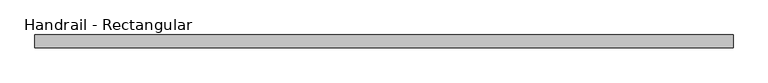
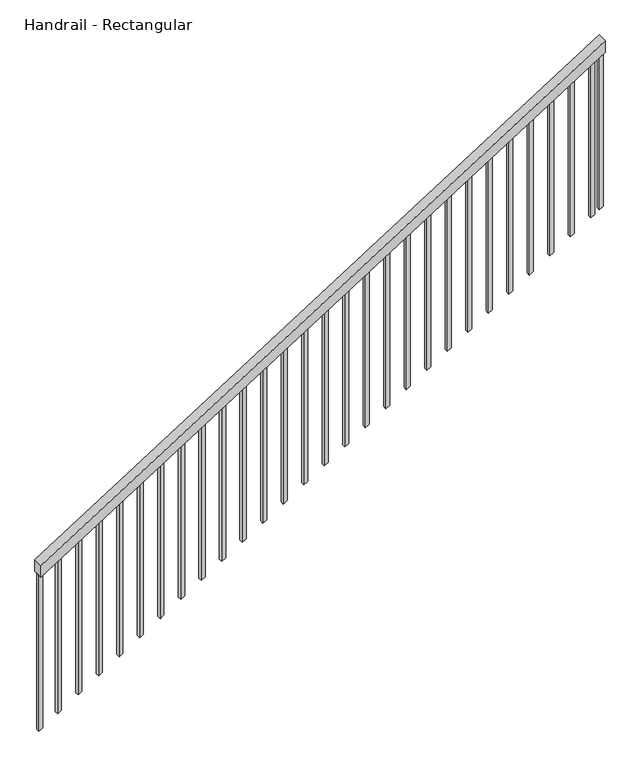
"""IFC4 building model written with IfcOpenShell, lengths in millimetres: railing geometry, Handrail - Rectangular."""

from ifc_helpers import new_model, si_unit, frame, origin, place, context, project, spatial, polyline, outline, extrude, source, transform, mapped, element, save


def handrail_rectangular_91ad3c17(model_context):
    return source(origin(), model_context, "Body", "SweptSolid", [
        extrude(outline(polyline([(914.4, 44662.5441131), (854.2680756, 44662.5441131), (2624.0745272, 47456.8606829), (2684.2064516, 47456.8606829), (914.4, 44662.5441131)])), frame((0.0, 25890.6599629, 0.0), z_axis=(0.0, 1.0, 0.0), x_axis=(0.0, 0.0, 1.0)), (0.0, 0.0, 1.0), 50.8),
        extrude(outline(polyline([(2597.7238643, 47415.2691131), (2585.6570021, 47396.2191131), (1769.1347018, 47396.2191131), (1781.201564, 47415.2691131), (2597.7238643, 47415.2691131)])), frame((0.0, 25906.5349629, 0.0), z_axis=(0.0, 1.0, 0.0), x_axis=(0.0, 0.0, 1.0)), (0.0, 0.0, 1.0), 19.05),
        extrude(outline(polyline([(2533.3745571, 47313.6691131), (2521.3076949, 47294.6191131), (1704.7853946, 47294.6191131), (1716.8522568, 47313.6691131), (2533.3745571, 47313.6691131)])), frame((0.0, 25906.5349629, 0.0), z_axis=(0.0, 1.0, 0.0), x_axis=(0.0, 0.0, 1.0)), (0.0, 0.0, 1.0), 19.05),
        extrude(outline(polyline([(2469.0252498, 47212.0691131), (2456.9583877, 47193.0191131), (1640.4360874, 47193.0191131), (1652.5029495, 47212.0691131), (2469.0252498, 47212.0691131)])), frame((0.0, 25906.5349629, 0.0), z_axis=(0.0, 1.0, 0.0), x_axis=(0.0, 0.0, 1.0)), (0.0, 0.0, 1.0), 19.05),
        extrude(outline(polyline([(2404.6759426, 47110.4691131), (2392.6090804, 47091.4191131), (1576.0867801, 47091.4191131), (1588.1536423, 47110.4691131), (2404.6759426, 47110.4691131)])), frame((0.0, 25906.5349629, 0.0), z_axis=(0.0, 1.0, 0.0), x_axis=(0.0, 0.0, 1.0)), (0.0, 0.0, 1.0), 19.05),
        extrude(outline(polyline([(2340.3266353, 47008.8691131), (2328.2597732, 46989.8191131), (1511.7374729, 46989.8191131), (1523.804335, 47008.8691131), (2340.3266353, 47008.8691131)])), frame((0.0, 25906.5349629, 0.0), z_axis=(0.0, 1.0, 0.0), x_axis=(0.0, 0.0, 1.0)), (0.0, 0.0, 1.0), 19.05),
        extrude(outline(polyline([(2275.9773281, 46907.2691131), (2263.9104659, 46888.2191131), (1447.3881656, 46888.2191131), (1459.4550278, 46907.2691131), (2275.9773281, 46907.2691131)])), frame((0.0, 25906.5349629, 0.0), z_axis=(0.0, 1.0, 0.0), x_axis=(0.0, 0.0, 1.0)), (0.0, 0.0, 1.0), 19.05),
        extrude(outline(polyline([(2211.6280209, 46805.6691131), (2199.5611587, 46786.6191131), (1383.0388584, 46786.6191131), (1395.1057206, 46805.6691131), (2211.6280209, 46805.6691131)])), frame((0.0, 25906.5349629, 0.0), z_axis=(0.0, 1.0, 0.0), x_axis=(0.0, 0.0, 1.0)), (0.0, 0.0, 1.0), 19.05),
        extrude(outline(polyline([(2147.2787136, 46704.0691131), (2135.2118514, 46685.0191131), (1318.6895511, 46685.0191131), (1330.7564133, 46704.0691131), (2147.2787136, 46704.0691131)])), frame((0.0, 25906.5349629, 0.0), z_axis=(0.0, 1.0, 0.0), x_axis=(0.0, 0.0, 1.0)), (0.0, 0.0, 1.0), 19.05),
        extrude(outline(polyline([(2082.9294064, 46602.4691131), (2070.8625442, 46583.4191131), (1254.3402439, 46583.4191131), (1266.4071061, 46602.4691131), (2082.9294064, 46602.4691131)])), frame((0.0, 25906.5349629, 0.0), z_axis=(0.0, 1.0, 0.0), x_axis=(0.0, 0.0, 1.0)), (0.0, 0.0, 1.0), 19.05),
        extrude(outline(polyline([(2018.5800991, 46500.8691131), (2006.513237, 46481.8191131), (1189.9909367, 46481.8191131), (1202.0577988, 46500.8691131), (2018.5800991, 46500.8691131)])), frame((0.0, 25906.5349629, 0.0), z_axis=(0.0, 1.0, 0.0), x_axis=(0.0, 0.0, 1.0)), (0.0, 0.0, 1.0), 19.05),
        extrude(outline(polyline([(1954.2307919, 46399.2691131), (1942.1639297, 46380.2191131), (1125.6416294, 46380.2191131), (1137.7084916, 46399.2691131), (1954.2307919, 46399.2691131)])), frame((0.0, 25906.5349629, 0.0), z_axis=(0.0, 1.0, 0.0), x_axis=(0.0, 0.0, 1.0)), (0.0, 0.0, 1.0), 19.05),
        extrude(outline(polyline([(1889.8814846, 46297.6691131), (1877.8146225, 46278.6191131), (1061.2923222, 46278.6191131), (1073.3591843, 46297.6691131), (1889.8814846, 46297.6691131)])), frame((0.0, 25906.5349629, 0.0), z_axis=(0.0, 1.0, 0.0), x_axis=(0.0, 0.0, 1.0)), (0.0, 0.0, 1.0), 19.05),
        extrude(outline(polyline([(1825.5321774, 46196.0691131), (1813.4653152, 46177.0191131), (996.9430149, 46177.0191131), (1009.0098771, 46196.0691131), (1825.5321774, 46196.0691131)])), frame((0.0, 25906.5349629, 0.0), z_axis=(0.0, 1.0, 0.0), x_axis=(0.0, 0.0, 1.0)), (0.0, 0.0, 1.0), 19.05),
        extrude(outline(polyline([(1761.1828702, 46094.4691131), (1749.116008, 46075.4191131), (932.5937077, 46075.4191131), (944.6605699, 46094.4691131), (1761.1828702, 46094.4691131)])), frame((0.0, 25906.5349629, 0.0), z_axis=(0.0, 1.0, 0.0), x_axis=(0.0, 0.0, 1.0)), (0.0, 0.0, 1.0), 19.05),
        extrude(outline(polyline([(1696.8335629, 45992.8691131), (1684.7667007, 45973.8191131), (868.2444004, 45973.8191131), (880.3112626, 45992.8691131), (1696.8335629, 45992.8691131)])), frame((0.0, 25906.5349629, 0.0), z_axis=(0.0, 1.0, 0.0), x_axis=(0.0, 0.0, 1.0)), (0.0, 0.0, 1.0), 19.05),
        extrude(outline(polyline([(1632.4842557, 45891.2691131), (1620.4173935, 45872.2191131), (803.8950932, 45872.2191131), (815.9619554, 45891.2691131), (1632.4842557, 45891.2691131)])), frame((0.0, 25906.5349629, 0.0), z_axis=(0.0, 1.0, 0.0), x_axis=(0.0, 0.0, 1.0)), (0.0, 0.0, 1.0), 19.05),
        extrude(outline(polyline([(1568.1349484, 45789.6691131), (1556.0680863, 45770.6191131), (739.545786, 45770.6191131), (751.6126481, 45789.6691131), (1568.1349484, 45789.6691131)])), frame((0.0, 25906.5349629, 0.0), z_axis=(0.0, 1.0, 0.0), x_axis=(0.0, 0.0, 1.0)), (0.0, 0.0, 1.0), 19.05),
        extrude(outline(polyline([(1503.7856412, 45688.0691131), (1491.718779, 45669.0191131), (675.1964787, 45669.0191131), (687.2633409, 45688.0691131), (1503.7856412, 45688.0691131)])), frame((0.0, 25906.5349629, 0.0), z_axis=(0.0, 1.0, 0.0), x_axis=(0.0, 0.0, 1.0)), (0.0, 0.0, 1.0), 19.05),
        extrude(outline(polyline([(1439.4363339, 45586.4691131), (1427.3694718, 45567.4191131), (610.8471715, 45567.4191131), (622.9140336, 45586.4691131), (1439.4363339, 45586.4691131)])), frame((0.0, 25906.5349629, 0.0), z_axis=(0.0, 1.0, 0.0), x_axis=(0.0, 0.0, 1.0)), (0.0, 0.0, 1.0), 19.05),
        extrude(outline(polyline([(1375.0870267, 45484.8691131), (1363.0201645, 45465.8191131), (546.4978642, 45465.8191131), (558.5647264, 45484.8691131), (1375.0870267, 45484.8691131)])), frame((0.0, 25906.5349629, 0.0), z_axis=(0.0, 1.0, 0.0), x_axis=(0.0, 0.0, 1.0)), (0.0, 0.0, 1.0), 19.05),
        extrude(outline(polyline([(1310.7377195, 45383.2691131), (1298.6708573, 45364.2191131), (482.148557, 45364.2191131), (494.2154192, 45383.2691131), (1310.7377195, 45383.2691131)])), frame((0.0, 25906.5349629, 0.0), z_axis=(0.0, 1.0, 0.0), x_axis=(0.0, 0.0, 1.0)), (0.0, 0.0, 1.0), 19.05),
        extrude(outline(polyline([(1246.3884122, 45281.6691131), (1234.32155, 45262.6191131), (417.7992497, 45262.6191131), (429.8661119, 45281.6691131), (1246.3884122, 45281.6691131)])), frame((0.0, 25906.5349629, 0.0), z_axis=(0.0, 1.0, 0.0), x_axis=(0.0, 0.0, 1.0)), (0.0, 0.0, 1.0), 19.05),
        extrude(outline(polyline([(1182.039105, 45180.0691131), (1169.9722428, 45161.0191131), (353.4499425, 45161.0191131), (365.5168047, 45180.0691131), (1182.039105, 45180.0691131)])), frame((0.0, 25906.5349629, 0.0), z_axis=(0.0, 1.0, 0.0), x_axis=(0.0, 0.0, 1.0)), (0.0, 0.0, 1.0), 19.05),
        extrude(outline(polyline([(1117.6897977, 45078.4691131), (1105.6229356, 45059.4191131), (289.1006353, 45059.4191131), (301.1674974, 45078.4691131), (1117.6897977, 45078.4691131)])), frame((0.0, 25906.5349629, 0.0), z_axis=(0.0, 1.0, 0.0), x_axis=(0.0, 0.0, 1.0)), (0.0, 0.0, 1.0), 19.05),
        extrude(outline(polyline([(1053.3404905, 44976.8691131), (1041.2736283, 44957.8191131), (224.751328, 44957.8191131), (236.8181902, 44976.8691131), (1053.3404905, 44976.8691131)])), frame((0.0, 25906.5349629, 0.0), z_axis=(0.0, 1.0, 0.0), x_axis=(0.0, 0.0, 1.0)), (0.0, 0.0, 1.0), 19.05),
        extrude(outline(polyline([(988.9911832, 44875.2691131), (976.9243211, 44856.2191131), (160.4020208, 44856.2191131), (172.4688829, 44875.2691131), (988.9911832, 44875.2691131)])), frame((0.0, 25906.5349629, 0.0), z_axis=(0.0, 1.0, 0.0), x_axis=(0.0, 0.0, 1.0)), (0.0, 0.0, 1.0), 19.05),
        extrude(outline(polyline([(924.641876, 44773.6691131), (912.5750138, 44754.6191131), (96.0527135, 44754.6191131), (108.1195757, 44773.6691131), (924.641876, 44773.6691131)])), frame((0.0, 25906.5349629, 0.0), z_axis=(0.0, 1.0, 0.0), x_axis=(0.0, 0.0, 1.0)), (0.0, 0.0, 1.0), 19.05),
        extrude(outline(polyline([(2624.0662728, 47456.8606829), (2611.9994106, 47437.8106829), (1795.4771103, 47437.8106829), (1807.5439725, 47456.8606829), (2624.0662728, 47456.8606829)])), frame((0.0, 25906.5349629, 0.0), z_axis=(0.0, 1.0, 0.0), x_axis=(0.0, 0.0, 1.0)), (0.0, 0.0, 1.0), 19.05),
        extrude(outline(polyline([(866.3253163, 44681.5941131), (854.2584541, 44662.5441131), (37.7361538, 44662.5441131), (49.803016, 44681.5941131), (866.3253163, 44681.5941131)])), frame((0.0, 25906.5349629, 0.0), z_axis=(0.0, 1.0, 0.0), x_axis=(0.0, 0.0, 1.0)), (0.0, 0.0, 1.0), 19.05),
    ])


if __name__ == "__main__":
    model = new_model("IFC4")
    model_context = context("Model", 3, world=origin())
    ifc_project = project(units=[si_unit("LENGTHUNIT", "METRE", prefix="MILLI")], contexts=[model_context])
    site = spatial("IfcSite", under=ifc_project)
    building = spatial("IfcBuilding", under=site)
    placement = place(None, origin())
    handrail_rectangular_shape = handrail_rectangular_91ad3c17(model_context)
    element("IfcRailing", 1, ObjectType="Handrail - Rectangular", at=placement, inside=building, context=model_context, shape_type="MappedRepresentation", body=[
        mapped(handrail_rectangular_shape, transform((0.0, 0.0, 0.0), x_axis=(1.0, 0.0, 0.0), y_axis=(0.0, 1.0, 0.0), z_axis=(0.0, 0.0, 1.0))),
    ])
    save(model, "model.ifc")
